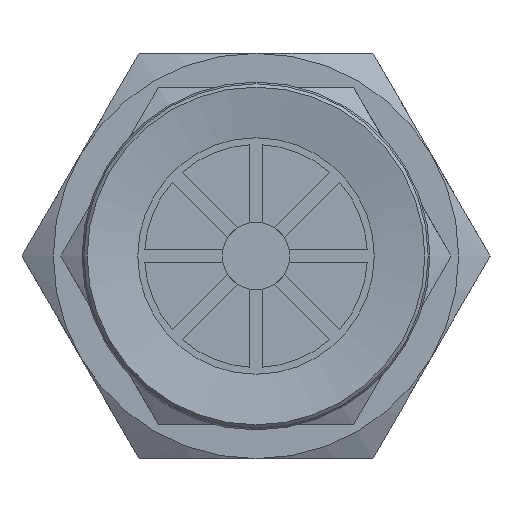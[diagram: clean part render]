
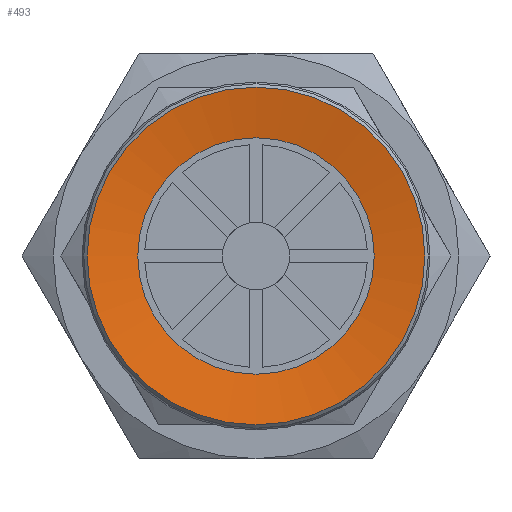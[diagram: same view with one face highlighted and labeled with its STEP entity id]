
A CAD part, front view. The second image highlights one B-rep face of the part: STEP entity #493.
In plain terms, the highlighted conical face has half-angle 80 degrees and reference radius 5 mm.
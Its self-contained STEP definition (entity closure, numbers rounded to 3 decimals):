
#493=ADVANCED_FACE('',(#771,#772),#773,.F.);
#771=FACE_BOUND('',#1110,.T.);
#772=FACE_OUTER_BOUND('',#1111,.T.);
#773=CONICAL_SURFACE('',#1112,5.0,1.396);
#1110=EDGE_LOOP('',(#1850));
#1111=EDGE_LOOP('',(#1851));
#1112=AXIS2_PLACEMENT_3D('',#1852,#1853,#1854);
#1850=ORIENTED_EDGE('',*,*,#2371,.T.);
#1851=ORIENTED_EDGE('',*,*,#2372,.F.);
#1852=CARTESIAN_POINT('',(0.0,0.,0.));
#1853=DIRECTION('',(0.0,0.,-1.0));
#1854=DIRECTION('',(0.0,1.0,0.));
#2371=EDGE_CURVE('',#2781,#2781,#2782,.T.);
#2372=EDGE_CURVE('',#2783,#2783,#2784,.T.);
#2781=VERTEX_POINT('',#3651);
#2782=CIRCLE('',#3652,3.5);
#2783=VERTEX_POINT('',#3653);
#2784=CIRCLE('',#3654,5.0);
#3651=CARTESIAN_POINT('',(0.0,-3.5,0.264));
#3652=AXIS2_PLACEMENT_3D('',#4129,#4130,#4131);
#3653=CARTESIAN_POINT('',(0.0,-5.0,0.));
#3654=AXIS2_PLACEMENT_3D('',#4132,#4133,#4134);
#4129=CARTESIAN_POINT('',(0.0,0.,0.264));
#4130=DIRECTION('',(0.0,0.,1.0));
#4131=DIRECTION('',(0.0,-1.0,0.));
#4132=CARTESIAN_POINT('',(0.0,0.,0.));
#4133=DIRECTION('',(0.0,0.,1.0));
#4134=DIRECTION('',(0.0,-1.0,0.));
